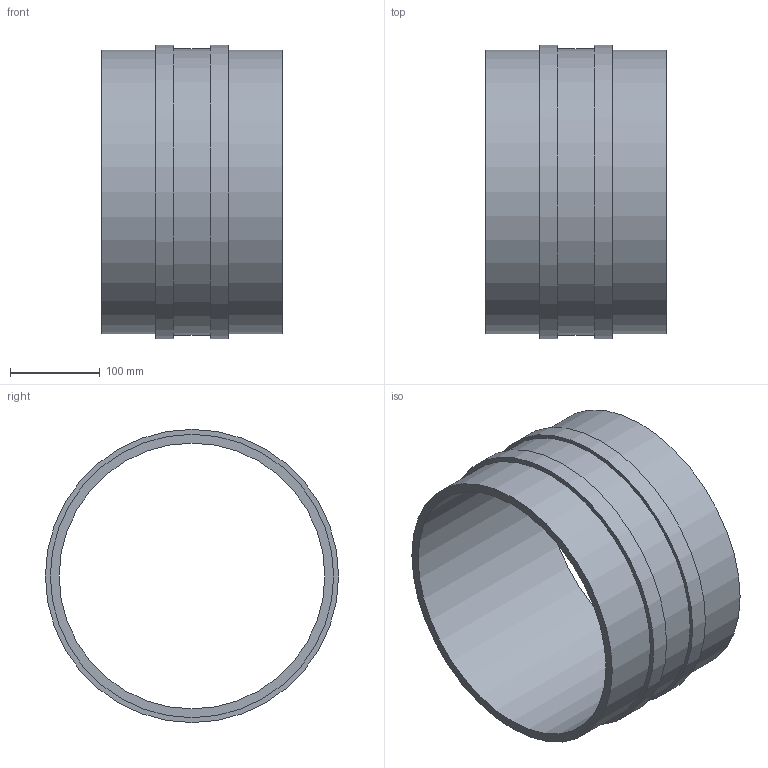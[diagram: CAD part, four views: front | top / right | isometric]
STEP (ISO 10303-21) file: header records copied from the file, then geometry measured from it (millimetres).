
FILE_DESCRIPTION(/* description */ (''),/* implementation_level */ '2;1');
FILE_NAME(/* name */ 'Z:\Geberit\Export\NewStep\372751.stp',/* time_stamp */ '2014-04-02T08:07:18+02:00',/* author */ ('nelson'),/* organization */ (''),/* preprocessor_version */ 'ST-DEVELOPER v15.2',/* originating_system */ 'Autodesk Inventor 2014',/* authorisation */ '');
FILE_SCHEMA (('AUTOMOTIVE_DESIGN { 1 0 10303 214 3 1 1 }'));
Length unit declared in the file: millimetre
Products named in the file (1): 372751
Bounding box: 201 x 326 x 326 mm (x, y, z)
Volume: 2171336 mm3; surface area: 425173.2 mm2
Topology: 1 solids, 1 shells, 12 faces, 18 edges, 12 vertices
Faces by surface type: plane 6, cylinder 6
Full cylindrical faces by diameter (mm): 295.4 x1, 315 x2, 318 x1, 326 x2
Entity records: 269 total; most frequent: DIRECTION 50, CARTESIAN_POINT 37, AXIS2_PLACEMENT_3D 25, EDGE_LOOP 24, ORIENTED_EDGE 24, FACE_BOUND 15, CIRCLE 12, VERTEX_POINT 12
